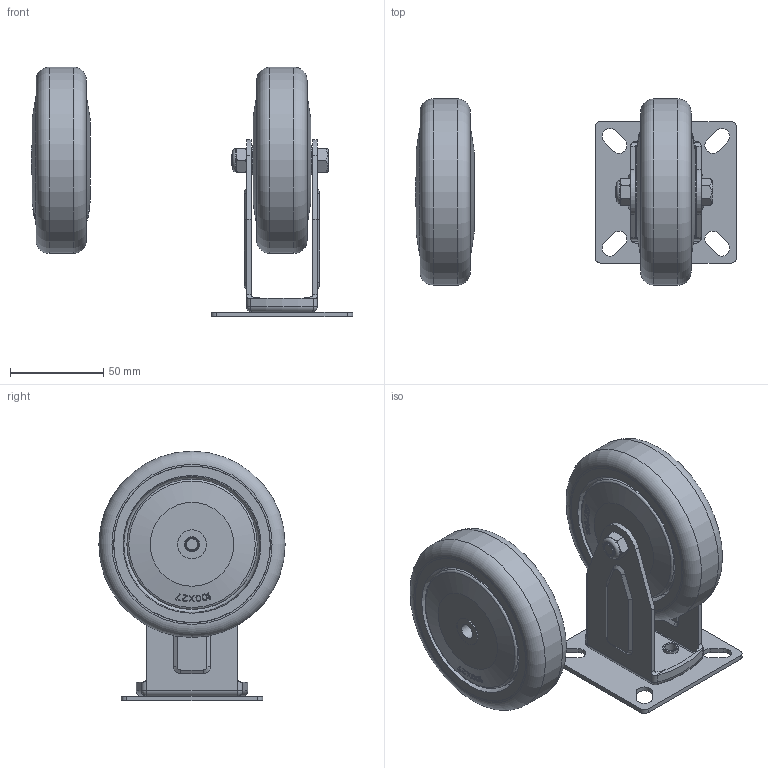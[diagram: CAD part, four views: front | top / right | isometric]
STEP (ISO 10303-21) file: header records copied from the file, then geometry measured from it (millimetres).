
FILE_DESCRIPTION(('STEP AP203'),'1');
FILE_NAME('E:/Pomoc/Strongo/343a39J100rZPE.stp',' ',(' '),(' '),'XStep 1.0',' ',' ');
FILE_SCHEMA(('CONFIG_CONTROL_DESIGN'));
Length unit declared in the file: metre
Products named in the file (3): Assembly52; Next assembly relationship; Assembly63
Bounding box: 172.54 x 100 x 134 mm (x, y, z)
Volume: 350874.8 mm3; surface area: 225699.6 mm2
Topology: 44 solids, 44 shells, 3387 faces, 9437 edges, 6218 vertices
Faces by surface type: plane 2573, cylinder 361, cone 217, torus 179, sphere 42, bspline 15
Full cylindrical faces by diameter (mm): 2.076 x4, 4.014 x2, 6.2 x8, 7 x1, 8 x15, 8.2 x12, 8.4 x12, 12 x8, 12.5 x1, 15.6 x4, 16.5 x4, 18 x4, 26 x4, 29 x4, 32 x4, 66.6 x4, 70 x4, 84 x2, 100 x2
Entity records: 55530 total; most frequent: CARTESIAN_POINT 16907, ORIENTED_EDGE 8314, DIRECTION 7281, EDGE_CURVE 4157, LINE 3145, VECTOR 3145, VERTEX_POINT 2774, AXIS2_PLACEMENT_3D 2068
